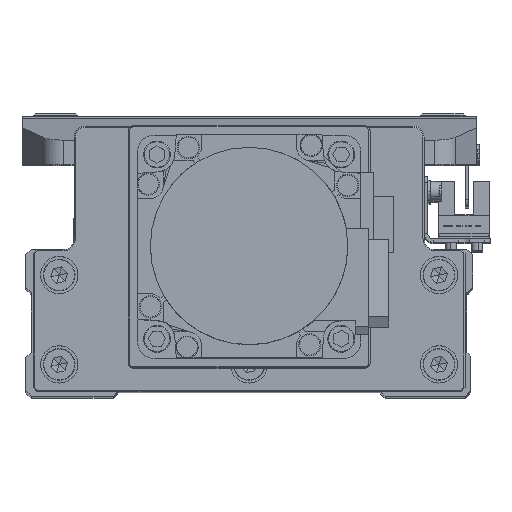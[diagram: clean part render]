
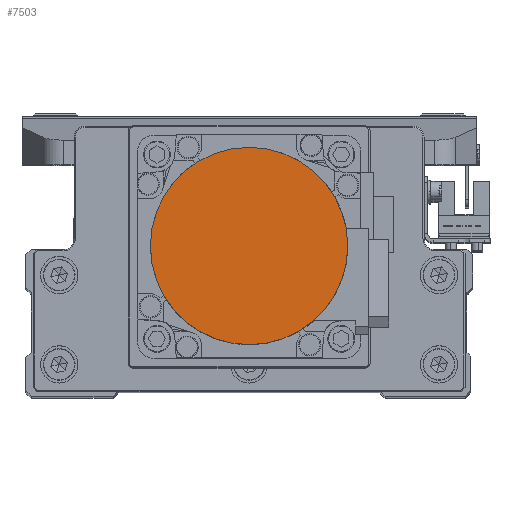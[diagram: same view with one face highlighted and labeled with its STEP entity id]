
A CAD part, top view. The second image highlights one B-rep face of the part: STEP entity #7503.
In plain terms, the highlighted planar face has unit normal (0, 0, 1) as drawn and (0, 0, -1) by its records, which use the part's own axes.
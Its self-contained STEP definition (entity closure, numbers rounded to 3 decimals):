
#599 = ORIENTED_EDGE ( 'NONE', *, *, #38638, .F. ) ;
#803 = AXIS2_PLACEMENT_3D ( 'NONE', #9555, #22152, #34734 ) ;
#1405 = AXIS2_PLACEMENT_3D ( 'NONE', #12758, #25363, #37938 ) ;
#1473 = EDGE_LOOP ( 'NONE', ( #599, #27749 ) ) ;
#1798 = DIRECTION ( 'NONE',  ( -1., 0., 0. ) ) ;
#3532 = VERTEX_POINT ( 'NONE', #6839 ) ;
#5808 = CARTESIAN_POINT ( 'NONE',  ( -26.5, 0., -109.7 ) ) ;
#6839 = CARTESIAN_POINT ( 'NONE',  ( 26.5, 0., -109.7 ) ) ;
#7503 = ADVANCED_FACE ( 'NONE', ( #25251 ), #37816, .F. ) ;
#9555 = CARTESIAN_POINT ( 'NONE',  ( 0., 0., -109.7 ) ) ;
#12758 = CARTESIAN_POINT ( 'NONE',  ( 0., 0., -109.7 ) ) ;
#14166 = VERTEX_POINT ( 'NONE', #5808 ) ;
#14731 = EDGE_CURVE ( 'NONE', #3532, #14166, #36966, .T. ) ;
#14762 = AXIS2_PLACEMENT_3D ( 'NONE', #17477, #30069, #1798 ) ;
#17477 = CARTESIAN_POINT ( 'NONE',  ( 0., 0., -109.7 ) ) ;
#22152 = DIRECTION ( 'NONE',  ( 0., 0., 1. ) ) ;
#25251 = FACE_OUTER_BOUND ( 'NONE', #1473, .T. ) ;
#25363 = DIRECTION ( 'NONE',  ( 0., 0., 1. ) ) ;
#27749 = ORIENTED_EDGE ( 'NONE', *, *, #14731, .F. ) ;
#30069 = DIRECTION ( 'NONE',  ( 0., 0., 1. ) ) ;
#32544 = CIRCLE ( 'NONE', #14762, 26.5 ) ;
#34734 = DIRECTION ( 'NONE',  ( 1., 0., 0. ) ) ;
#36966 = CIRCLE ( 'NONE', #1405, 26.5 ) ;
#37816 = PLANE ( 'NONE',  #803 ) ;
#37938 = DIRECTION ( 'NONE',  ( 1., 0., 0. ) ) ;
#38638 = EDGE_CURVE ( 'NONE', #14166, #3532, #32544, .T. ) ;
